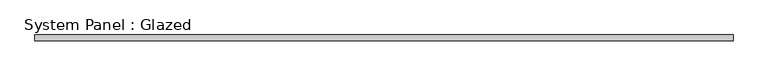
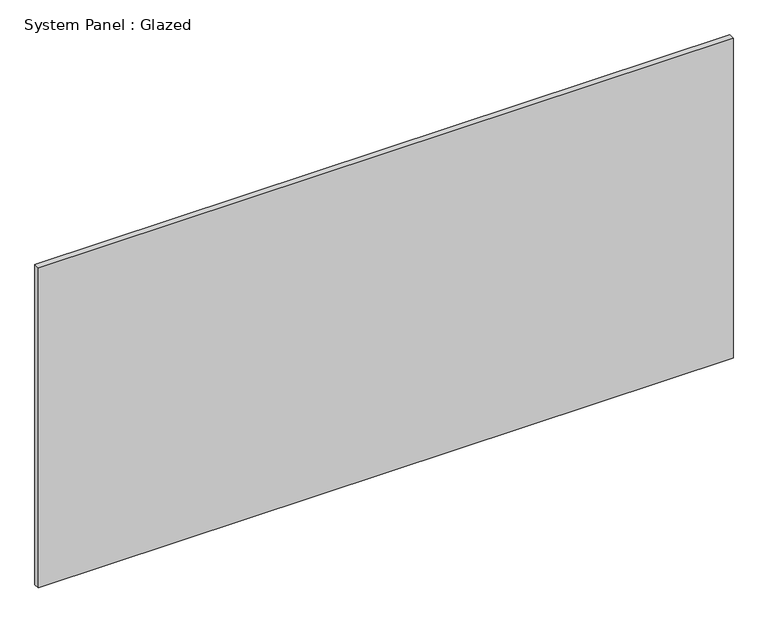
"""IFC4 building model written with IfcOpenShell, lengths in millimetres: plate geometry, System Panel : Glazed."""

from ifc_helpers import new_model, si_unit, origin, origin_with_axes, place, context, project, spatial, polyline, outline, extrude, source, transform, mapped, element, save


def system_panel_glazed_873ae882(model_context):
    return source(origin(), model_context, "Body", "SweptSolid", [
        extrude(outline(polyline([(595.4006011, -5.0), (-595.4006011, -5.0), (-595.4006011, 5.0), (595.4006011, 5.0), (595.4006011, -5.0)])), origin_with_axes(), (0.0, 0.0, 1.0), 580.0),
    ])


if __name__ == "__main__":
    model = new_model("IFC4")
    model_context = context("Model", 3, world=origin())
    ifc_project = project(units=[si_unit("LENGTHUNIT", "METRE", prefix="MILLI")], contexts=[model_context])
    site = spatial("IfcSite", under=ifc_project)
    building = spatial("IfcBuilding", under=site)
    placement = place(None, origin())
    system_panel_glazed_shape = system_panel_glazed_873ae882(model_context)
    element("IfcPlate", 1, ObjectType="System Panel : Glazed", at=placement, inside=building, context=model_context, shape_type="MappedRepresentation", body=[
        mapped(system_panel_glazed_shape, transform((0.0, 0.0, 0.0), x_axis=(1.0, 0.0, 0.0), y_axis=(0.0, 1.0, 0.0), z_axis=(0.0, 0.0, 1.0))),
    ])
    save(model, "model.ifc")
